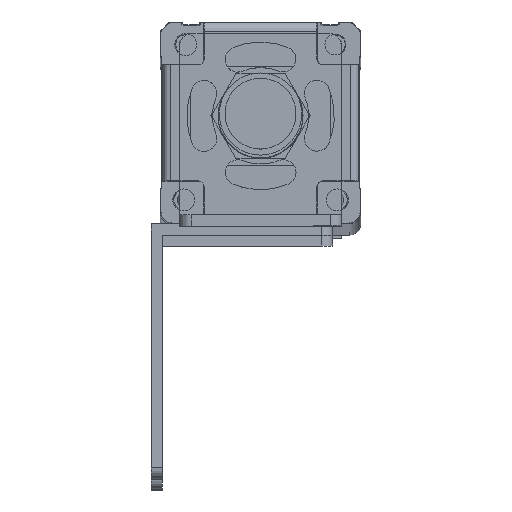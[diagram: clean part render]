
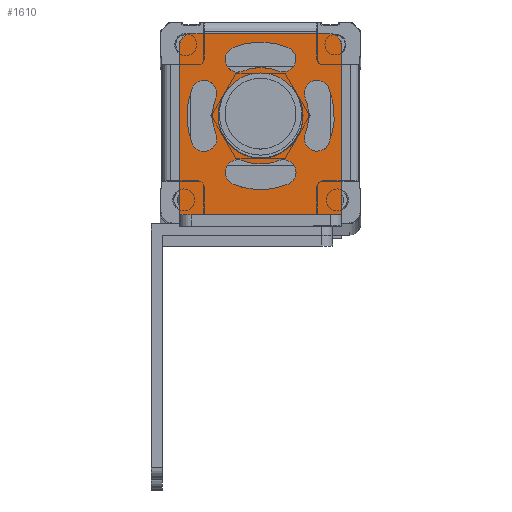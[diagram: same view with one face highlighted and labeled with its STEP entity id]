
A CAD part, top view. The second image highlights one B-rep face of the part: STEP entity #1610.
In plain terms, the highlighted planar face has unit normal (0, 0, 1).
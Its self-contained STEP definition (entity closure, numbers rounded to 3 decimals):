
#470=FACE_BOUND('',#3095,.T.);
#471=FACE_BOUND('',#3096,.T.);
#472=FACE_BOUND('',#3097,.T.);
#473=FACE_BOUND('',#3098,.T.);
#474=FACE_BOUND('',#3099,.T.);
#475=FACE_BOUND('',#3100,.T.);
#1046=CIRCLE('',#12267,7.5);
#1047=CIRCLE('',#12269,7.5);
#1048=CIRCLE('',#12271,2.);
#1049=CIRCLE('',#12272,2.);
#1050=CIRCLE('',#12273,8.5);
#1051=CIRCLE('',#12274,2.25);
#1052=CIRCLE('',#12275,13.);
#1053=CIRCLE('',#12276,2.25);
#1054=CIRCLE('',#12277,13.);
#1055=CIRCLE('',#12278,2.25);
#1056=CIRCLE('',#12279,8.5);
#1057=CIRCLE('',#12280,2.25);
#1058=CIRCLE('',#12281,13.);
#1059=CIRCLE('',#12282,2.25);
#1060=CIRCLE('',#12283,8.5);
#1061=CIRCLE('',#12284,2.25);
#1062=CIRCLE('',#12285,13.);
#1063=CIRCLE('',#12286,2.25);
#1064=CIRCLE('',#12287,8.5);
#1065=CIRCLE('',#12288,2.25);
#1610=ADVANCED_FACE('',(#470,#471,#472,#473,#474,#475),#1961,.T.);
#1961=PLANE('',#12289);
#3095=EDGE_LOOP('',(#6187,#6188,#6189,#6190,#6191,#6192));
#3096=EDGE_LOOP('',(#6193,#6194));
#3097=EDGE_LOOP('',(#6195,#6196,#6197,#6198));
#3098=EDGE_LOOP('',(#6199,#6200,#6201,#6202));
#3099=EDGE_LOOP('',(#6203,#6204,#6205,#6206));
#3100=EDGE_LOOP('',(#6207,#6208,#6209,#6210));
#6187=ORIENTED_EDGE('',*,*,#8998,.T.);
#6188=ORIENTED_EDGE('',*,*,#8999,.T.);
#6189=ORIENTED_EDGE('',*,*,#9000,.T.);
#6190=ORIENTED_EDGE('',*,*,#9001,.F.);
#6191=ORIENTED_EDGE('',*,*,#9002,.T.);
#6192=ORIENTED_EDGE('',*,*,#9003,.T.);
#6193=ORIENTED_EDGE('',*,*,#8997,.F.);
#6194=ORIENTED_EDGE('',*,*,#8995,.F.);
#6195=ORIENTED_EDGE('',*,*,#9004,.F.);
#6196=ORIENTED_EDGE('',*,*,#9005,.F.);
#6197=ORIENTED_EDGE('',*,*,#9006,.F.);
#6198=ORIENTED_EDGE('',*,*,#9007,.F.);
#6199=ORIENTED_EDGE('',*,*,#9008,.F.);
#6200=ORIENTED_EDGE('',*,*,#9009,.F.);
#6201=ORIENTED_EDGE('',*,*,#9010,.F.);
#6202=ORIENTED_EDGE('',*,*,#9011,.F.);
#6203=ORIENTED_EDGE('',*,*,#9012,.F.);
#6204=ORIENTED_EDGE('',*,*,#9013,.F.);
#6205=ORIENTED_EDGE('',*,*,#9014,.F.);
#6206=ORIENTED_EDGE('',*,*,#9015,.F.);
#6207=ORIENTED_EDGE('',*,*,#9016,.F.);
#6208=ORIENTED_EDGE('',*,*,#9017,.F.);
#6209=ORIENTED_EDGE('',*,*,#9018,.F.);
#6210=ORIENTED_EDGE('',*,*,#9019,.F.);
#7415=VERTEX_POINT('',#18798);
#7416=VERTEX_POINT('',#18800);
#7417=VERTEX_POINT('',#18806);
#7418=VERTEX_POINT('',#18807);
#7419=VERTEX_POINT('',#18809);
#7420=VERTEX_POINT('',#18811);
#7421=VERTEX_POINT('',#18813);
#7422=VERTEX_POINT('',#18815);
#7423=VERTEX_POINT('',#18818);
#7424=VERTEX_POINT('',#18819);
#7425=VERTEX_POINT('',#18821);
#7426=VERTEX_POINT('',#18823);
#7427=VERTEX_POINT('',#18826);
#7428=VERTEX_POINT('',#18827);
#7429=VERTEX_POINT('',#18829);
#7430=VERTEX_POINT('',#18831);
#7431=VERTEX_POINT('',#18834);
#7432=VERTEX_POINT('',#18835);
#7433=VERTEX_POINT('',#18837);
#7434=VERTEX_POINT('',#18839);
#7435=VERTEX_POINT('',#18842);
#7436=VERTEX_POINT('',#18843);
#7437=VERTEX_POINT('',#18845);
#7438=VERTEX_POINT('',#18847);
#8995=EDGE_CURVE('',#7415,#7416,#1046,.T.);
#8997=EDGE_CURVE('',#7416,#7415,#1047,.T.);
#8998=EDGE_CURVE('',#7417,#7418,#10119,.T.);
#8999=EDGE_CURVE('',#7418,#7419,#1048,.T.);
#9000=EDGE_CURVE('',#7419,#7420,#10120,.T.);
#9001=EDGE_CURVE('',#7421,#7420,#10121,.T.);
#9002=EDGE_CURVE('',#7421,#7422,#10122,.T.);
#9003=EDGE_CURVE('',#7422,#7417,#1049,.T.);
#9004=EDGE_CURVE('',#7423,#7424,#1050,.T.);
#9005=EDGE_CURVE('',#7425,#7423,#1051,.T.);
#9006=EDGE_CURVE('',#7426,#7425,#1052,.T.);
#9007=EDGE_CURVE('',#7424,#7426,#1053,.T.);
#9008=EDGE_CURVE('',#7427,#7428,#1054,.T.);
#9009=EDGE_CURVE('',#7429,#7427,#1055,.T.);
#9010=EDGE_CURVE('',#7430,#7429,#1056,.T.);
#9011=EDGE_CURVE('',#7428,#7430,#1057,.T.);
#9012=EDGE_CURVE('',#7431,#7432,#1058,.T.);
#9013=EDGE_CURVE('',#7433,#7431,#1059,.T.);
#9014=EDGE_CURVE('',#7434,#7433,#1060,.T.);
#9015=EDGE_CURVE('',#7432,#7434,#1061,.T.);
#9016=EDGE_CURVE('',#7435,#7436,#1062,.T.);
#9017=EDGE_CURVE('',#7437,#7435,#1063,.T.);
#9018=EDGE_CURVE('',#7438,#7437,#1064,.T.);
#9019=EDGE_CURVE('',#7436,#7438,#1065,.T.);
#10119=LINE('',#18805,#11206);
#10120=LINE('',#18810,#11207);
#10121=LINE('',#18812,#11208);
#10122=LINE('',#18814,#11209);
#11206=VECTOR('',#15419,1.);
#11207=VECTOR('',#15422,1.);
#11208=VECTOR('',#15423,1.);
#11209=VECTOR('',#15424,1.);
#12267=AXIS2_PLACEMENT_3D('',#18799,#15410,#15411);
#12269=AXIS2_PLACEMENT_3D('',#18803,#15415,#15416);
#12271=AXIS2_PLACEMENT_3D('',#18808,#15420,#15421);
#12272=AXIS2_PLACEMENT_3D('',#18816,#15425,#15426);
#12273=AXIS2_PLACEMENT_3D('',#18817,#15427,#15428);
#12274=AXIS2_PLACEMENT_3D('',#18820,#15429,#15430);
#12275=AXIS2_PLACEMENT_3D('',#18822,#15431,#15432);
#12276=AXIS2_PLACEMENT_3D('',#18824,#15433,#15434);
#12277=AXIS2_PLACEMENT_3D('',#18825,#15435,#15436);
#12278=AXIS2_PLACEMENT_3D('',#18828,#15437,#15438);
#12279=AXIS2_PLACEMENT_3D('',#18830,#15439,#15440);
#12280=AXIS2_PLACEMENT_3D('',#18832,#15441,#15442);
#12281=AXIS2_PLACEMENT_3D('',#18833,#15443,#15444);
#12282=AXIS2_PLACEMENT_3D('',#18836,#15445,#15446);
#12283=AXIS2_PLACEMENT_3D('',#18838,#15447,#15448);
#12284=AXIS2_PLACEMENT_3D('',#18840,#15449,#15450);
#12285=AXIS2_PLACEMENT_3D('',#18841,#15451,#15452);
#12286=AXIS2_PLACEMENT_3D('',#18844,#15453,#15454);
#12287=AXIS2_PLACEMENT_3D('',#18846,#15455,#15456);
#12288=AXIS2_PLACEMENT_3D('',#18848,#15457,#15458);
#12289=AXIS2_PLACEMENT_3D('',#18849,#15459,#15460);
#15410=DIRECTION('',(0.,0.,1.));
#15411=DIRECTION('',(-1.,-0.002,0.));
#15415=DIRECTION('',(0.,0.,1.));
#15416=DIRECTION('',(1.,0.002,0.));
#15419=DIRECTION('',(-1.,-0.002,0.));
#15420=DIRECTION('',(0.,0.,1.));
#15421=DIRECTION('',(-0.002,1.,0.));
#15422=DIRECTION('',(0.002,-1.,0.));
#15423=DIRECTION('',(-1.,-0.002,0.));
#15424=DIRECTION('',(-0.002,1.,0.));
#15425=DIRECTION('',(0.,0.,1.));
#15426=DIRECTION('',(1.,0.002,0.));
#15427=DIRECTION('',(0.,0.,-1.));
#15428=DIRECTION('',(0.928,0.374,0.));
#15429=DIRECTION('',(0.,0.,1.));
#15430=DIRECTION('',(0.928,0.374,0.));
#15431=DIRECTION('',(0.,0.,1.));
#15432=DIRECTION('',(0.929,-0.371,0.));
#15433=DIRECTION('',(0.,0.,1.));
#15434=DIRECTION('',(-0.929,0.371,0.));
#15435=DIRECTION('',(0.,0.,1.));
#15436=DIRECTION('',(-0.929,0.371,0.));
#15437=DIRECTION('',(0.,0.,1.));
#15438=DIRECTION('',(0.929,-0.371,0.));
#15439=DIRECTION('',(0.,0.,-1.));
#15440=DIRECTION('',(-0.928,-0.374,0.));
#15441=DIRECTION('',(0.,0.,1.));
#15442=DIRECTION('',(-0.928,-0.374,0.));
#15443=DIRECTION('',(0.,0.,1.));
#15444=DIRECTION('',(-0.371,-0.929,0.));
#15445=DIRECTION('',(0.,0.,1.));
#15446=DIRECTION('',(0.371,0.929,0.));
#15447=DIRECTION('',(0.,0.,-1.));
#15448=DIRECTION('',(0.374,-0.928,0.));
#15449=DIRECTION('',(0.,0.,1.));
#15450=DIRECTION('',(0.374,-0.928,0.));
#15451=DIRECTION('',(0.,0.,1.));
#15452=DIRECTION('',(0.371,0.929,0.));
#15453=DIRECTION('',(0.,0.,1.));
#15454=DIRECTION('',(-0.371,-0.929,0.));
#15455=DIRECTION('',(0.,0.,-1.));
#15456=DIRECTION('',(-0.374,0.928,0.));
#15457=DIRECTION('',(0.,0.,1.));
#15458=DIRECTION('',(-0.374,0.928,0.));
#15459=DIRECTION('',(0.,0.,1.));
#15460=DIRECTION('',(-1.,-0.002,0.));
#18798=CARTESIAN_POINT('',(243.846,-38.579,283.445));
#18799=CARTESIAN_POINT('',(251.346,-38.566,283.445));
#18800=CARTESIAN_POINT('',(258.846,-38.553,283.445));
#18803=CARTESIAN_POINT('',(251.346,-38.566,283.445));
#18805=CARTESIAN_POINT('',(263.572,-24.045,283.445));
#18806=CARTESIAN_POINT('',(263.572,-24.045,283.445));
#18807=CARTESIAN_POINT('',(239.072,-24.087,283.445));
#18808=CARTESIAN_POINT('',(239.075,-26.087,283.445));
#18809=CARTESIAN_POINT('',(237.075,-26.09,283.445));
#18810=CARTESIAN_POINT('',(237.075,-26.09,283.445));
#18811=CARTESIAN_POINT('',(237.126,-56.09,283.445));
#18812=CARTESIAN_POINT('',(265.626,-56.042,283.445));
#18813=CARTESIAN_POINT('',(265.626,-56.042,283.445));
#18814=CARTESIAN_POINT('',(265.626,-56.042,283.445));
#18815=CARTESIAN_POINT('',(265.575,-26.042,283.445));
#18816=CARTESIAN_POINT('',(263.575,-26.045,283.445));
#18817=CARTESIAN_POINT('',(251.346,-38.566,283.445));
#18818=CARTESIAN_POINT('',(259.231,-35.39,283.445));
#18819=CARTESIAN_POINT('',(259.241,-41.715,283.445));
#18820=CARTESIAN_POINT('',(261.318,-34.549,283.445));
#18821=CARTESIAN_POINT('',(263.405,-33.708,283.445));
#18822=CARTESIAN_POINT('',(251.346,-38.566,283.445));
#18823=CARTESIAN_POINT('',(263.421,-43.383,283.445));
#18824=CARTESIAN_POINT('',(261.331,-42.549,283.445));
#18825=CARTESIAN_POINT('',(251.346,-38.566,283.445));
#18826=CARTESIAN_POINT('',(239.272,-33.749,283.445));
#18827=CARTESIAN_POINT('',(239.288,-43.423,283.445));
#18828=CARTESIAN_POINT('',(241.362,-34.583,283.445));
#18829=CARTESIAN_POINT('',(243.451,-35.416,283.445));
#18830=CARTESIAN_POINT('',(251.346,-38.566,283.445));
#18831=CARTESIAN_POINT('',(243.462,-41.742,283.445));
#18832=CARTESIAN_POINT('',(241.375,-42.583,283.445));
#18833=CARTESIAN_POINT('',(251.346,-38.566,283.445));
#18834=CARTESIAN_POINT('',(246.529,-50.641,283.445));
#18835=CARTESIAN_POINT('',(256.204,-50.624,283.445));
#18836=CARTESIAN_POINT('',(247.363,-48.551,283.445));
#18837=CARTESIAN_POINT('',(248.197,-46.461,283.445));
#18838=CARTESIAN_POINT('',(251.346,-38.566,283.445));
#18839=CARTESIAN_POINT('',(254.522,-46.45,283.445));
#18840=CARTESIAN_POINT('',(255.363,-48.537,283.445));
#18841=CARTESIAN_POINT('',(251.346,-38.566,283.445));
#18842=CARTESIAN_POINT('',(256.163,-26.491,283.445));
#18843=CARTESIAN_POINT('',(246.489,-26.508,283.445));
#18844=CARTESIAN_POINT('',(255.33,-28.581,283.445));
#18845=CARTESIAN_POINT('',(254.496,-30.671,283.445));
#18846=CARTESIAN_POINT('',(251.346,-38.566,283.445));
#18847=CARTESIAN_POINT('',(248.17,-30.682,283.445));
#18848=CARTESIAN_POINT('',(247.33,-28.595,283.445));
#18849=CARTESIAN_POINT('',(251.346,-38.566,283.445));
